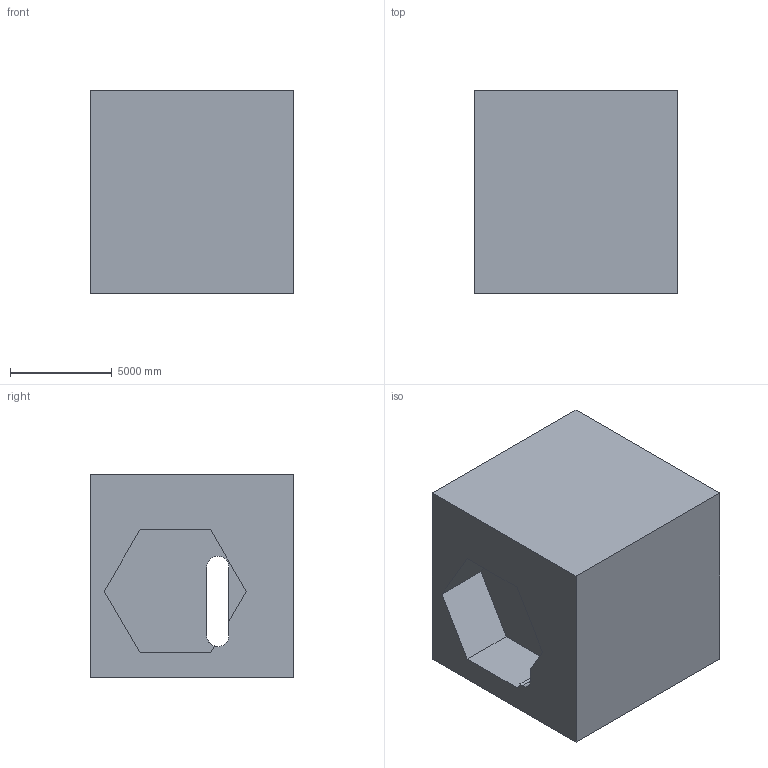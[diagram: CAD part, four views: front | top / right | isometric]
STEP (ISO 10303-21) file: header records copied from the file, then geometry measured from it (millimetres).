
FILE_DESCRIPTION (( 'STEP AP203' ), '1' );
FILE_NAME ('46.STEP', '2022-07-28T13:29:06', ( 'user' ), ( '' ), 'SwSTEP 2.0', 'SolidWorks 2021', '' );
FILE_SCHEMA (( 'CONFIG_CONTROL_DESIGN' ));
Length unit declared in the file: centimetre
Products named in the file (1): 46
Bounding box: 10000 x 10000 x 10000 mm (x, y, z)
Volume: 880186095306.5 mm3; surface area: 722343261.6 mm2
Topology: 1 solids, 1 shells, 19 faces, 51 edges, 34 vertices
Faces by surface type: plane 16, cylinder 3
Entity records: 673 total; most frequent: CARTESIAN_POINT 105, ORIENTED_EDGE 102, DIRECTION 98, EDGE_CURVE 51, LINE 44, VECTOR 44, VERTEX_POINT 34, AXIS2_PLACEMENT_3D 27
